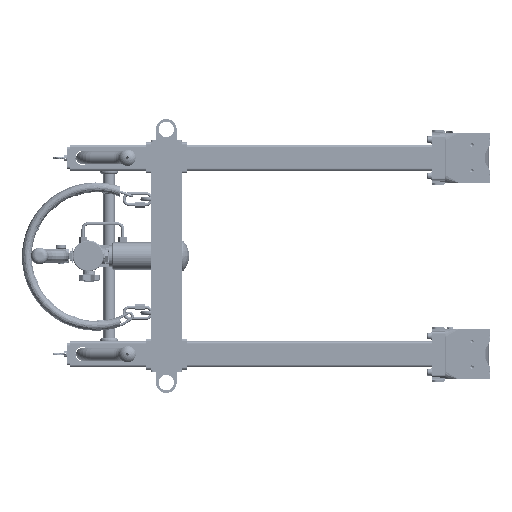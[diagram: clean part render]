
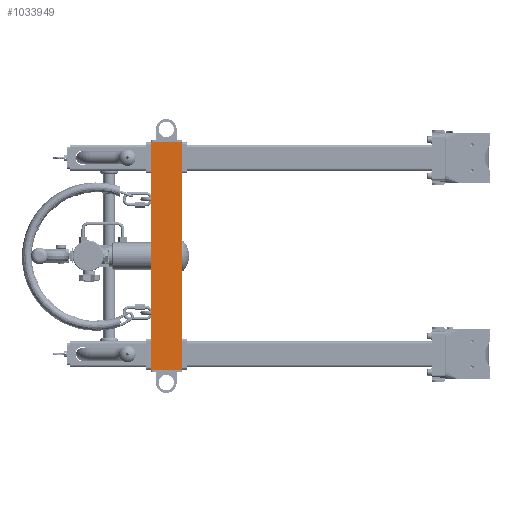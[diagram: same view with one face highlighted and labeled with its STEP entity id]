
A CAD part, left-side view. The second image highlights one B-rep face of the part: STEP entity #1033949.
In plain terms, the highlighted planar face has unit normal (-1, 0, 0).
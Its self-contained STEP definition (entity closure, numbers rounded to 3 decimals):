
#50702 = VECTOR ( 'NONE', #115259, 1000. ) ;
#76822 = PLANE ( 'NONE',  #1040425 ) ;
#81913 = LINE ( 'NONE', #198382, #50702 ) ;
#115259 = DIRECTION ( 'NONE',  ( 0., 0., -1. ) ) ;
#158236 = EDGE_CURVE ( 'NONE', #502387, #833076, #901137, .T. ) ;
#161167 = DIRECTION ( 'NONE',  ( 0., 0., -1. ) ) ;
#161176 = ORIENTED_EDGE ( 'NONE', *, *, #177686, .T. ) ;
#177686 = EDGE_CURVE ( 'NONE', #1242944, #960563, #467325, .T. ) ;
#198382 = CARTESIAN_POINT ( 'NONE',  ( -124., 584.25, 101.12 ) ) ;
#229633 = VECTOR ( 'NONE', #161167, 1000. ) ;
#354736 = ORIENTED_EDGE ( 'NONE', *, *, #929447, .T. ) ;
#361959 = DIRECTION ( 'NONE',  ( 0., -1., 0. ) ) ;
#410618 = DIRECTION ( 'NONE',  ( 0., 0., -1. ) ) ;
#467325 = LINE ( 'NONE', #1171082, #1263803 ) ;
#475423 = CARTESIAN_POINT ( 'NONE',  ( -124., 644.25, -338.88 ) ) ;
#478664 = LINE ( 'NONE', #1156038, #229633 ) ;
#502387 = VERTEX_POINT ( 'NONE', #1125005 ) ;
#559368 = EDGE_CURVE ( 'NONE', #833076, #960563, #81913, .T. ) ;
#606588 = DIRECTION ( 'NONE',  ( 1., 0., 0. ) ) ;
#700696 = FACE_OUTER_BOUND ( 'NONE', #862891, .T. ) ;
#761987 = DIRECTION ( 'NONE',  ( 0., -1., 0. ) ) ;
#793015 = CARTESIAN_POINT ( 'NONE',  ( -124., 584.25, 101.12 ) ) ;
#833076 = VERTEX_POINT ( 'NONE', #793015 ) ;
#854977 = CARTESIAN_POINT ( 'NONE',  ( -124., 644.25, 101.12 ) ) ;
#862891 = EDGE_LOOP ( 'NONE', ( #161176, #1172153, #873251, #354736 ) ) ;
#873251 = ORIENTED_EDGE ( 'NONE', *, *, #158236, .F. ) ;
#901137 = LINE ( 'NONE', #854977, #963814 ) ;
#929447 = EDGE_CURVE ( 'NONE', #502387, #1242944, #478664, .T. ) ;
#960563 = VERTEX_POINT ( 'NONE', #1100204 ) ;
#963814 = VECTOR ( 'NONE', #361959, 1000. ) ;
#1033949 = ADVANCED_FACE ( 'NONE', ( #700696 ), #76822, .F. ) ;
#1040425 = AXIS2_PLACEMENT_3D ( 'NONE', #1204910, #606588, #410618 ) ;
#1100204 = CARTESIAN_POINT ( 'NONE',  ( -124., 584.25, -338.88 ) ) ;
#1125005 = CARTESIAN_POINT ( 'NONE',  ( -124., 644.25, 101.12 ) ) ;
#1156038 = CARTESIAN_POINT ( 'NONE',  ( -124., 644.25, 101.12 ) ) ;
#1171082 = CARTESIAN_POINT ( 'NONE',  ( -124., 644.25, -338.88 ) ) ;
#1172153 = ORIENTED_EDGE ( 'NONE', *, *, #559368, .F. ) ;
#1204910 = CARTESIAN_POINT ( 'NONE',  ( -124., 644.25, 101.12 ) ) ;
#1242944 = VERTEX_POINT ( 'NONE', #475423 ) ;
#1263803 = VECTOR ( 'NONE', #761987, 1000. ) ;
